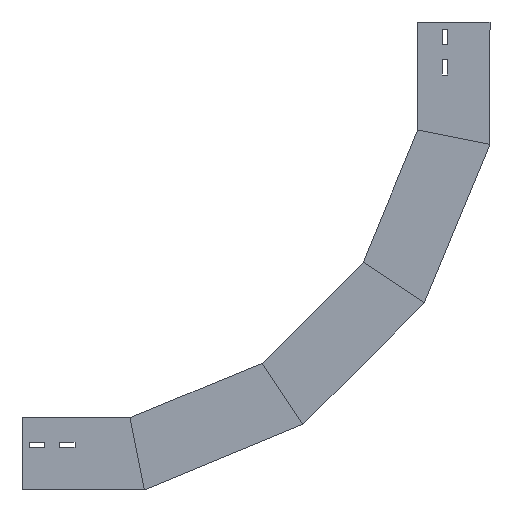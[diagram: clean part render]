
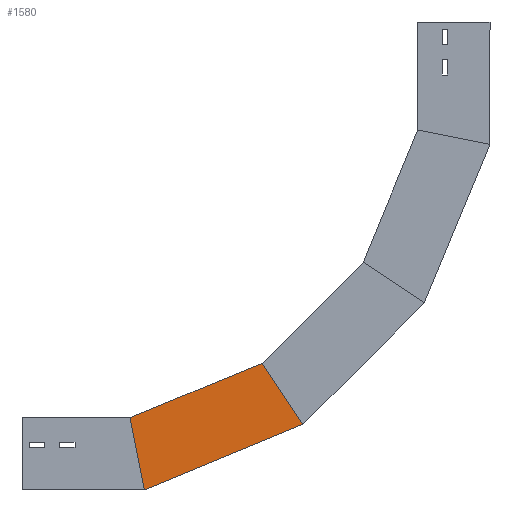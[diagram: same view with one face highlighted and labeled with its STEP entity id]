
A CAD part, left-side view. The second image highlights one B-rep face of the part: STEP entity #1580.
In plain terms, the highlighted planar face has unit normal (-1, 0, 0) as drawn and (1, 0, 0) by its records, which use the part's own axes.
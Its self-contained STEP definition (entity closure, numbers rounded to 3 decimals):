
#15 = CARTESIAN_POINT ( 'NONE',  ( 0., 91.117, -389.576 ) ) ;
#41 = VECTOR ( 'NONE', #270, 1000. ) ;
#64 = EDGE_LOOP ( 'NONE', ( #1301, #1389, #884, #1732 ) ) ;
#140 = CARTESIAN_POINT ( 'NONE',  ( 0., 100., -149.709 ) ) ;
#202 = CARTESIAN_POINT ( 'NONE',  ( 0., 129.74, -363.769 ) ) ;
#214 = DIRECTION ( 'NONE',  ( 0., -0.831, -0.556 ) ) ;
#270 = DIRECTION ( 'NONE',  ( 0., -0.981, -0.195 ) ) ;
#288 = LINE ( 'NONE', #857, #41 ) ;
#315 = DIRECTION ( 'NONE',  ( 0., 0.383, -0.924 ) ) ;
#334 = DIRECTION ( 'NONE',  ( -1., 0., 0. ) ) ;
#465 = VERTEX_POINT ( 'NONE', #756 ) ;
#472 = PLANE ( 'NONE',  #1276 ) ;
#589 = VERTEX_POINT ( 'NONE', #140 ) ;
#662 = VERTEX_POINT ( 'NONE', #15 ) ;
#756 = CARTESIAN_POINT ( 'NONE',  ( 0., 0., -169.6 ) ) ;
#857 = CARTESIAN_POINT ( 'NONE',  ( 0., 32.452, -163.145 ) ) ;
#881 = LINE ( 'NONE', #896, #1130 ) ;
#884 = ORIENTED_EDGE ( 'NONE', *, *, #1879, .T. ) ;
#887 = EDGE_CURVE ( 'NONE', #1483, #662, #1374, .T. ) ;
#896 = CARTESIAN_POINT ( 'NONE',  ( 0., 0., -169.6 ) ) ;
#904 = LINE ( 'NONE', #1644, #1009 ) ;
#919 = DIRECTION ( 'NONE',  ( 0., 0., 1. ) ) ;
#1009 = VECTOR ( 'NONE', #315, 1000. ) ;
#1130 = VECTOR ( 'NONE', #1427, 1000. ) ;
#1168 = CARTESIAN_POINT ( 'NONE',  ( 0., 175.893, -332.93 ) ) ;
#1187 = VECTOR ( 'NONE', #214, 1000. ) ;
#1276 = AXIS2_PLACEMENT_3D ( 'NONE', #1820, #334, #919 ) ;
#1301 = ORIENTED_EDGE ( 'NONE', *, *, #1573, .F. ) ;
#1329 = FACE_OUTER_BOUND ( 'NONE', #64, .T. ) ;
#1374 = LINE ( 'NONE', #202, #1187 ) ;
#1389 = ORIENTED_EDGE ( 'NONE', *, *, #1865, .T. ) ;
#1427 = DIRECTION ( 'NONE',  ( 0., 0.383, -0.924 ) ) ;
#1483 = VERTEX_POINT ( 'NONE', #1168 ) ;
#1573 = EDGE_CURVE ( 'NONE', #589, #1483, #904, .T. ) ;
#1580 = ADVANCED_FACE ( 'NONE', ( #1329 ), #472, .F. ) ;
#1644 = CARTESIAN_POINT ( 'NONE',  ( 0., 92.388, -131.332 ) ) ;
#1732 = ORIENTED_EDGE ( 'NONE', *, *, #887, .F. ) ;
#1820 = CARTESIAN_POINT ( 'NONE',  ( 0., 0., -169.6 ) ) ;
#1865 = EDGE_CURVE ( 'NONE', #589, #465, #288, .T. ) ;
#1879 = EDGE_CURVE ( 'NONE', #465, #662, #881, .T. ) ;
